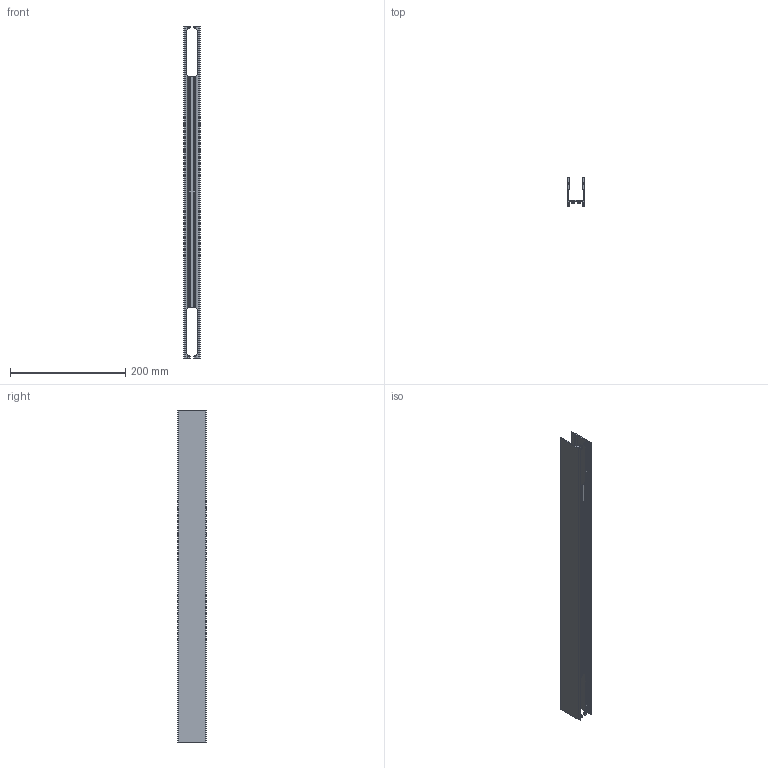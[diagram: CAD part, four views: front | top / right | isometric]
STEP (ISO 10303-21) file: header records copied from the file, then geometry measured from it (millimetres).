
FILE_DESCRIPTION(/* description */ ('Unknown'),/* implementation_level */ '2;1');
FILE_NAME(/* name */ '98468',/* time_stamp */ '2023-02-07T04:48:59-05:00',/* author */ ('Unknown'),/* organization */ ('Unknown'),/* preprocessor_version */ 'ST-DEVELOPER v18.1',/* originating_system */ 'Solid Edge',/* authorisation */ 'Unknown');
FILE_SCHEMA (('AUTOMOTIVE_DESIGN {1 0 10303 214 3 1 1}'));
Length unit declared in the file: millimetre
Products named in the file (1): L-PR021
Bounding box: 28 x 49 x 577 mm (x, y, z)
Volume: 126813.2 mm3; surface area: 149236.9 mm2
Topology: 1 solids, 1 shells, 148 faces, 442 edges, 296 vertices
Faces by surface type: cylinder 96, plane 52
Entity records: 5222 total; most frequent: CARTESIAN_POINT 1221, ORIENTED_EDGE 884, DIRECTION 800, EDGE_CURVE 442, VERTEX_POINT 296, AXIS2_PLACEMENT_3D 289, LINE 222, VECTOR 222
